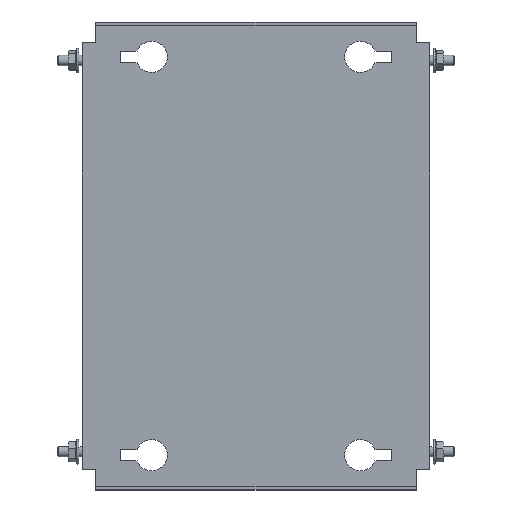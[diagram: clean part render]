
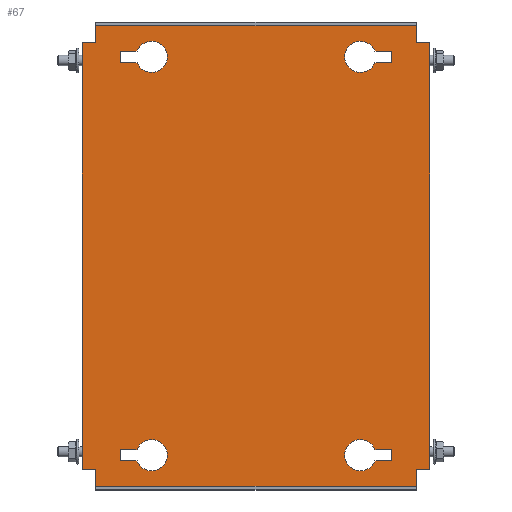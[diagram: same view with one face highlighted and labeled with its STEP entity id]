
A CAD part, top view. The second image highlights one B-rep face of the part: STEP entity #67.
In plain terms, the highlighted planar face has unit normal (0, 0, 1).
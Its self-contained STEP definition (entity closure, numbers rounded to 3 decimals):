
#67 = ADVANCED_FACE('',(#68,#103,#138,#300,#335),#370,.T.);
#68 = FACE_BOUND('',#69,.T.);
#69 = EDGE_LOOP('',(#70,#80,#88,#96));
#70 = ORIENTED_EDGE('',*,*,#71,.T.);
#71 = EDGE_CURVE('',#72,#74,#76,.T.);
#72 = VERTEX_POINT('',#73);
#73 = CARTESIAN_POINT('',(68.393,117.75,2.));
#74 = VERTEX_POINT('',#75);
#75 = CARTESIAN_POINT('',(78.,117.75,2.));
#76 = LINE('',#77,#78);
#77 = CARTESIAN_POINT('',(77.,117.75,2.));
#78 = VECTOR('',#79,1.);
#79 = DIRECTION('',(1.,0.,0.));
#80 = ORIENTED_EDGE('',*,*,#81,.T.);
#81 = EDGE_CURVE('',#74,#82,#84,.T.);
#82 = VERTEX_POINT('',#83);
#83 = CARTESIAN_POINT('',(78.,111.25,2.));
#84 = LINE('',#85,#86);
#85 = CARTESIAN_POINT('',(78.,117.75,2.));
#86 = VECTOR('',#87,1.);
#87 = DIRECTION('',(0.,-1.,0.));
#88 = ORIENTED_EDGE('',*,*,#89,.T.);
#89 = EDGE_CURVE('',#82,#90,#92,.T.);
#90 = VERTEX_POINT('',#91);
#91 = CARTESIAN_POINT('',(68.393,111.25,2.));
#92 = LINE('',#93,#94);
#93 = CARTESIAN_POINT('',(77.,111.25,2.));
#94 = VECTOR('',#95,1.);
#95 = DIRECTION('',(-1.,0.,0.));
#96 = ORIENTED_EDGE('',*,*,#97,.T.);
#97 = EDGE_CURVE('',#90,#72,#98,.T.);
#98 = CIRCLE('',#99,9.);
#99 = AXIS2_PLACEMENT_3D('',#100,#101,#102);
#100 = CARTESIAN_POINT('',(60.,114.5,2.));
#101 = DIRECTION('',(0.,0.,-1.));
#102 = DIRECTION('',(1.,0.,0.));
#103 = FACE_BOUND('',#104,.T.);
#104 = EDGE_LOOP('',(#105,#115,#123,#131));
#105 = ORIENTED_EDGE('',*,*,#106,.T.);
#106 = EDGE_CURVE('',#107,#109,#111,.T.);
#107 = VERTEX_POINT('',#108);
#108 = CARTESIAN_POINT('',(-68.393,-117.75,2.));
#109 = VERTEX_POINT('',#110);
#110 = CARTESIAN_POINT('',(-78.,-117.75,2.));
#111 = LINE('',#112,#113);
#112 = CARTESIAN_POINT('',(-77.,-117.75,2.));
#113 = VECTOR('',#114,1.);
#114 = DIRECTION('',(-1.,0.,0.));
#115 = ORIENTED_EDGE('',*,*,#116,.T.);
#116 = EDGE_CURVE('',#109,#117,#119,.T.);
#117 = VERTEX_POINT('',#118);
#118 = CARTESIAN_POINT('',(-78.,-111.25,2.));
#119 = LINE('',#120,#121);
#120 = CARTESIAN_POINT('',(-78.,-117.75,2.));
#121 = VECTOR('',#122,1.);
#122 = DIRECTION('',(0.,1.,0.));
#123 = ORIENTED_EDGE('',*,*,#124,.T.);
#124 = EDGE_CURVE('',#117,#125,#127,.T.);
#125 = VERTEX_POINT('',#126);
#126 = CARTESIAN_POINT('',(-68.393,-111.25,2.));
#127 = LINE('',#128,#129);
#128 = CARTESIAN_POINT('',(-77.,-111.25,2.));
#129 = VECTOR('',#130,1.);
#130 = DIRECTION('',(1.,-0.,-0.));
#131 = ORIENTED_EDGE('',*,*,#132,.T.);
#132 = EDGE_CURVE('',#125,#107,#133,.T.);
#133 = CIRCLE('',#134,9.);
#134 = AXIS2_PLACEMENT_3D('',#135,#136,#137);
#135 = CARTESIAN_POINT('',(-60.,-114.5,2.));
#136 = DIRECTION('',(0.,0.,-1.));
#137 = DIRECTION('',(-1.,0.,0.));
#138 = FACE_BOUND('',#139,.T.);
#139 = EDGE_LOOP('',(#140,#150,#158,#166,#174,#182,#190,#198,#206,#214,
    #222,#230,#238,#246,#254,#262,#270,#278,#286,#294));
#140 = ORIENTED_EDGE('',*,*,#141,.F.);
#141 = EDGE_CURVE('',#142,#144,#146,.T.);
#142 = VERTEX_POINT('',#143);
#143 = CARTESIAN_POINT('',(-97.4,122.5,2.));
#144 = VERTEX_POINT('',#145);
#145 = CARTESIAN_POINT('',(-92.,122.5,2.));
#146 = LINE('',#147,#148);
#147 = CARTESIAN_POINT('',(-98.,122.5,2.));
#148 = VECTOR('',#149,1.);
#149 = DIRECTION('',(1.,0.,-0.));
#150 = ORIENTED_EDGE('',*,*,#151,.T.);
#151 = EDGE_CURVE('',#142,#152,#154,.T.);
#152 = VERTEX_POINT('',#153);
#153 = CARTESIAN_POINT('',(-100.,122.5,2.));
#154 = LINE('',#155,#156);
#155 = CARTESIAN_POINT('',(-97.4,122.5,2.));
#156 = VECTOR('',#157,1.);
#157 = DIRECTION('',(-1.,0.,0.));
#158 = ORIENTED_EDGE('',*,*,#159,.F.);
#159 = EDGE_CURVE('',#160,#152,#162,.T.);
#160 = VERTEX_POINT('',#161);
#161 = CARTESIAN_POINT('',(-100.,-122.5,2.));
#162 = LINE('',#163,#164);
#163 = CARTESIAN_POINT('',(-100.,-132.5,2.));
#164 = VECTOR('',#165,1.);
#165 = DIRECTION('',(0.,1.,-0.));
#166 = ORIENTED_EDGE('',*,*,#167,.F.);
#167 = EDGE_CURVE('',#168,#160,#170,.T.);
#168 = VERTEX_POINT('',#169);
#169 = CARTESIAN_POINT('',(-97.4,-122.5,2.));
#170 = LINE('',#171,#172);
#171 = CARTESIAN_POINT('',(-92.,-122.5,2.));
#172 = VECTOR('',#173,1.);
#173 = DIRECTION('',(-1.,-0.,-0.));
#174 = ORIENTED_EDGE('',*,*,#175,.T.);
#175 = EDGE_CURVE('',#168,#176,#178,.T.);
#176 = VERTEX_POINT('',#177);
#177 = CARTESIAN_POINT('',(-92.,-122.5,2.));
#178 = LINE('',#179,#180);
#179 = CARTESIAN_POINT('',(-98.,-122.5,2.));
#180 = VECTOR('',#181,1.);
#181 = DIRECTION('',(1.,0.,-0.));
#182 = ORIENTED_EDGE('',*,*,#183,.T.);
#183 = EDGE_CURVE('',#176,#184,#186,.T.);
#184 = VERTEX_POINT('',#185);
#185 = CARTESIAN_POINT('',(-92.,-131.9,2.));
#186 = LINE('',#187,#188);
#187 = CARTESIAN_POINT('',(-92.,132.5,2.));
#188 = VECTOR('',#189,1.);
#189 = DIRECTION('',(0.,-1.,0.));
#190 = ORIENTED_EDGE('',*,*,#191,.T.);
#191 = EDGE_CURVE('',#184,#192,#194,.T.);
#192 = VERTEX_POINT('',#193);
#193 = CARTESIAN_POINT('',(-92.,-132.5,2.));
#194 = LINE('',#195,#196);
#195 = CARTESIAN_POINT('',(-92.,-131.9,2.));
#196 = VECTOR('',#197,1.);
#197 = DIRECTION('',(-0.,-1.,-0.));
#198 = ORIENTED_EDGE('',*,*,#199,.T.);
#199 = EDGE_CURVE('',#192,#200,#202,.T.);
#200 = VERTEX_POINT('',#201);
#201 = CARTESIAN_POINT('',(92.,-132.5,2.));
#202 = LINE('',#203,#204);
#203 = CARTESIAN_POINT('',(92.,-132.5,2.));
#204 = VECTOR('',#205,1.);
#205 = DIRECTION('',(1.,0.,0.));
#206 = ORIENTED_EDGE('',*,*,#207,.F.);
#207 = EDGE_CURVE('',#208,#200,#210,.T.);
#208 = VERTEX_POINT('',#209);
#209 = CARTESIAN_POINT('',(92.,-131.9,2.));
#210 = LINE('',#211,#212);
#211 = CARTESIAN_POINT('',(92.,-132.5,2.));
#212 = VECTOR('',#213,1.);
#213 = DIRECTION('',(0.,-1.,0.));
#214 = ORIENTED_EDGE('',*,*,#215,.T.);
#215 = EDGE_CURVE('',#208,#216,#218,.T.);
#216 = VERTEX_POINT('',#217);
#217 = CARTESIAN_POINT('',(92.,-122.5,2.));
#218 = LINE('',#219,#220);
#219 = CARTESIAN_POINT('',(92.,132.5,2.));
#220 = VECTOR('',#221,1.);
#221 = DIRECTION('',(0.,1.,-0.));
#222 = ORIENTED_EDGE('',*,*,#223,.F.);
#223 = EDGE_CURVE('',#224,#216,#226,.T.);
#224 = VERTEX_POINT('',#225);
#225 = CARTESIAN_POINT('',(97.4,-122.5,2.));
#226 = LINE('',#227,#228);
#227 = CARTESIAN_POINT('',(98.,-122.5,2.));
#228 = VECTOR('',#229,1.);
#229 = DIRECTION('',(-1.,0.,-0.));
#230 = ORIENTED_EDGE('',*,*,#231,.T.);
#231 = EDGE_CURVE('',#224,#232,#234,.T.);
#232 = VERTEX_POINT('',#233);
#233 = CARTESIAN_POINT('',(100.,-122.5,2.));
#234 = LINE('',#235,#236);
#235 = CARTESIAN_POINT('',(97.4,-122.5,2.));
#236 = VECTOR('',#237,1.);
#237 = DIRECTION('',(1.,-0.,0.));
#238 = ORIENTED_EDGE('',*,*,#239,.F.);
#239 = EDGE_CURVE('',#240,#232,#242,.T.);
#240 = VERTEX_POINT('',#241);
#241 = CARTESIAN_POINT('',(100.,122.5,2.));
#242 = LINE('',#243,#244);
#243 = CARTESIAN_POINT('',(100.,-132.5,2.));
#244 = VECTOR('',#245,1.);
#245 = DIRECTION('',(0.,-1.,-0.));
#246 = ORIENTED_EDGE('',*,*,#247,.F.);
#247 = EDGE_CURVE('',#248,#240,#250,.T.);
#248 = VERTEX_POINT('',#249);
#249 = CARTESIAN_POINT('',(97.4,122.5,2.));
#250 = LINE('',#251,#252);
#251 = CARTESIAN_POINT('',(-92.,122.5,2.));
#252 = VECTOR('',#253,1.);
#253 = DIRECTION('',(1.,-0.,0.));
#254 = ORIENTED_EDGE('',*,*,#255,.T.);
#255 = EDGE_CURVE('',#248,#256,#258,.T.);
#256 = VERTEX_POINT('',#257);
#257 = CARTESIAN_POINT('',(92.,122.5,2.));
#258 = LINE('',#259,#260);
#259 = CARTESIAN_POINT('',(98.,122.5,2.));
#260 = VECTOR('',#261,1.);
#261 = DIRECTION('',(-1.,0.,-0.));
#262 = ORIENTED_EDGE('',*,*,#263,.T.);
#263 = EDGE_CURVE('',#256,#264,#266,.T.);
#264 = VERTEX_POINT('',#265);
#265 = CARTESIAN_POINT('',(92.,131.9,2.));
#266 = LINE('',#267,#268);
#267 = CARTESIAN_POINT('',(92.,132.5,2.));
#268 = VECTOR('',#269,1.);
#269 = DIRECTION('',(0.,1.,-0.));
#270 = ORIENTED_EDGE('',*,*,#271,.T.);
#271 = EDGE_CURVE('',#264,#272,#274,.T.);
#272 = VERTEX_POINT('',#273);
#273 = CARTESIAN_POINT('',(92.,132.5,2.));
#274 = LINE('',#275,#276);
#275 = CARTESIAN_POINT('',(92.,131.9,2.));
#276 = VECTOR('',#277,1.);
#277 = DIRECTION('',(-0.,1.,-0.));
#278 = ORIENTED_EDGE('',*,*,#279,.T.);
#279 = EDGE_CURVE('',#272,#280,#282,.T.);
#280 = VERTEX_POINT('',#281);
#281 = CARTESIAN_POINT('',(-92.,132.5,2.));
#282 = LINE('',#283,#284);
#283 = CARTESIAN_POINT('',(-92.,132.5,2.));
#284 = VECTOR('',#285,1.);
#285 = DIRECTION('',(-1.,0.,0.));
#286 = ORIENTED_EDGE('',*,*,#287,.F.);
#287 = EDGE_CURVE('',#288,#280,#290,.T.);
#288 = VERTEX_POINT('',#289);
#289 = CARTESIAN_POINT('',(-92.,131.9,2.));
#290 = LINE('',#291,#292);
#291 = CARTESIAN_POINT('',(-92.,-132.5,2.));
#292 = VECTOR('',#293,1.);
#293 = DIRECTION('',(0.,1.,-0.));
#294 = ORIENTED_EDGE('',*,*,#295,.T.);
#295 = EDGE_CURVE('',#288,#144,#296,.T.);
#296 = LINE('',#297,#298);
#297 = CARTESIAN_POINT('',(-92.,132.5,2.));
#298 = VECTOR('',#299,1.);
#299 = DIRECTION('',(0.,-1.,0.));
#300 = FACE_BOUND('',#301,.T.);
#301 = EDGE_LOOP('',(#302,#312,#320,#328));
#302 = ORIENTED_EDGE('',*,*,#303,.F.);
#303 = EDGE_CURVE('',#304,#306,#308,.T.);
#304 = VERTEX_POINT('',#305);
#305 = CARTESIAN_POINT('',(78.,-111.25,2.));
#306 = VERTEX_POINT('',#307);
#307 = CARTESIAN_POINT('',(68.393,-111.25,2.));
#308 = LINE('',#309,#310);
#309 = CARTESIAN_POINT('',(68.393,-111.25,2.));
#310 = VECTOR('',#311,1.);
#311 = DIRECTION('',(-1.,0.,0.));
#312 = ORIENTED_EDGE('',*,*,#313,.F.);
#313 = EDGE_CURVE('',#314,#304,#316,.T.);
#314 = VERTEX_POINT('',#315);
#315 = CARTESIAN_POINT('',(78.,-117.75,2.));
#316 = LINE('',#317,#318);
#317 = CARTESIAN_POINT('',(78.,-111.25,2.));
#318 = VECTOR('',#319,1.);
#319 = DIRECTION('',(0.,1.,0.));
#320 = ORIENTED_EDGE('',*,*,#321,.F.);
#321 = EDGE_CURVE('',#322,#314,#324,.T.);
#322 = VERTEX_POINT('',#323);
#323 = CARTESIAN_POINT('',(68.393,-117.75,2.));
#324 = LINE('',#325,#326);
#325 = CARTESIAN_POINT('',(77.,-117.75,2.));
#326 = VECTOR('',#327,1.);
#327 = DIRECTION('',(1.,0.,0.));
#328 = ORIENTED_EDGE('',*,*,#329,.F.);
#329 = EDGE_CURVE('',#306,#322,#330,.T.);
#330 = CIRCLE('',#331,9.);
#331 = AXIS2_PLACEMENT_3D('',#332,#333,#334);
#332 = CARTESIAN_POINT('',(60.,-114.5,2.));
#333 = DIRECTION('',(0.,-0.,1.));
#334 = DIRECTION('',(1.,0.,0.));
#335 = FACE_BOUND('',#336,.T.);
#336 = EDGE_LOOP('',(#337,#347,#355,#363));
#337 = ORIENTED_EDGE('',*,*,#338,.F.);
#338 = EDGE_CURVE('',#339,#341,#343,.T.);
#339 = VERTEX_POINT('',#340);
#340 = CARTESIAN_POINT('',(-78.,111.25,2.));
#341 = VERTEX_POINT('',#342);
#342 = CARTESIAN_POINT('',(-68.393,111.25,2.));
#343 = LINE('',#344,#345);
#344 = CARTESIAN_POINT('',(-68.393,111.25,2.));
#345 = VECTOR('',#346,1.);
#346 = DIRECTION('',(1.,0.,0.));
#347 = ORIENTED_EDGE('',*,*,#348,.F.);
#348 = EDGE_CURVE('',#349,#339,#351,.T.);
#349 = VERTEX_POINT('',#350);
#350 = CARTESIAN_POINT('',(-78.,117.75,2.));
#351 = LINE('',#352,#353);
#352 = CARTESIAN_POINT('',(-78.,111.25,2.));
#353 = VECTOR('',#354,1.);
#354 = DIRECTION('',(0.,-1.,0.));
#355 = ORIENTED_EDGE('',*,*,#356,.F.);
#356 = EDGE_CURVE('',#357,#349,#359,.T.);
#357 = VERTEX_POINT('',#358);
#358 = CARTESIAN_POINT('',(-68.393,117.75,2.));
#359 = LINE('',#360,#361);
#360 = CARTESIAN_POINT('',(-77.,117.75,2.));
#361 = VECTOR('',#362,1.);
#362 = DIRECTION('',(-1.,0.,0.));
#363 = ORIENTED_EDGE('',*,*,#364,.F.);
#364 = EDGE_CURVE('',#341,#357,#365,.T.);
#365 = CIRCLE('',#366,9.);
#366 = AXIS2_PLACEMENT_3D('',#367,#368,#369);
#367 = CARTESIAN_POINT('',(-60.,114.5,2.));
#368 = DIRECTION('',(0.,-0.,1.));
#369 = DIRECTION('',(-1.,0.,0.));
#370 = PLANE('',#371);
#371 = AXIS2_PLACEMENT_3D('',#372,#373,#374);
#372 = CARTESIAN_POINT('',(-92.,-132.5,2.));
#373 = DIRECTION('',(-0.,0.,1.));
#374 = DIRECTION('',(1.,0.,0.));
